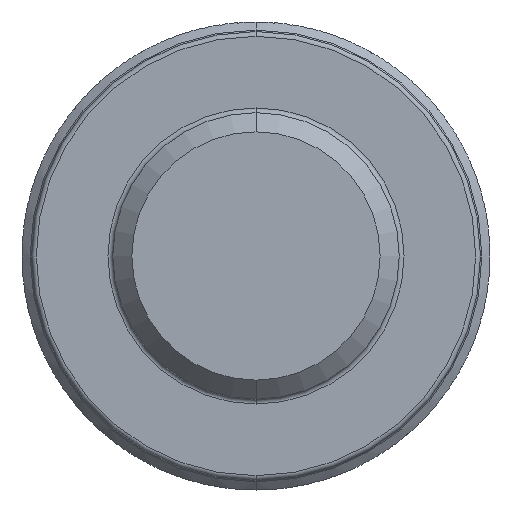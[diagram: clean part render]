
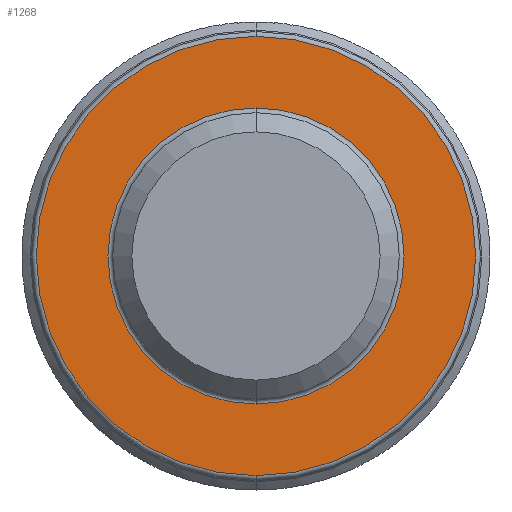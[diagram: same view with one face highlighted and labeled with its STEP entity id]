
A CAD part, front view. The second image highlights one B-rep face of the part: STEP entity #1268.
In plain terms, the highlighted planar face has unit normal (0, -1, 0).
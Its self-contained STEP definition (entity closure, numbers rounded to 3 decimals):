
#346 = AXIS2_PLACEMENT_3D ( 'NONE', #6908, #6822, #3471 ) ;
#473 = CARTESIAN_POINT ( 'NONE',  ( 0., -6., 4.6 ) ) ;
#552 = CARTESIAN_POINT ( 'NONE',  ( 0., -6., 3.1 ) ) ;
#920 = CARTESIAN_POINT ( 'NONE',  ( 0., -6., 0. ) ) ;
#1268 = ADVANCED_FACE ( 'NONE', ( #3577, #4415 ), #1534, .T. ) ;
#1534 = PLANE ( 'NONE',  #4714 ) ;
#1614 = CARTESIAN_POINT ( 'NONE',  ( 0., -6., -4.6 ) ) ;
#2065 = CARTESIAN_POINT ( 'NONE',  ( 0., -6., -3.1 ) ) ;
#2125 = CARTESIAN_POINT ( 'NONE',  ( 0., -6., 0. ) ) ;
#2214 = DIRECTION ( 'NONE',  ( 0., 0., -1. ) ) ;
#2222 = CIRCLE ( 'NONE', #346, 4.6 ) ;
#2250 = CIRCLE ( 'NONE', #7091, 3.1 ) ;
#2302 = VERTEX_POINT ( 'NONE', #2065 ) ;
#2313 = ORIENTED_EDGE ( 'NONE', *, *, #3550, .T. ) ;
#2330 = DIRECTION ( 'NONE',  ( 0., 0., -1. ) ) ;
#2399 = AXIS2_PLACEMENT_3D ( 'NONE', #2125, #6855, #2214 ) ;
#2532 = EDGE_CURVE ( 'NONE', #2302, #4646, #2250, .T. ) ;
#3295 = ORIENTED_EDGE ( 'NONE', *, *, #2532, .T. ) ;
#3471 = DIRECTION ( 'NONE',  ( 0., 0., -1. ) ) ;
#3550 = EDGE_CURVE ( 'NONE', #6171, #8036, #2222, .T. ) ;
#3577 = FACE_BOUND ( 'NONE', #3949, .T. ) ;
#3949 = EDGE_LOOP ( 'NONE', ( #3295, #7039 ) ) ;
#4239 = CARTESIAN_POINT ( 'NONE',  ( 3., -6., 0. ) ) ;
#4249 = CIRCLE ( 'NONE', #8720, 3.1 ) ;
#4415 = FACE_OUTER_BOUND ( 'NONE', #4691, .T. ) ;
#4646 = VERTEX_POINT ( 'NONE', #552 ) ;
#4691 = EDGE_LOOP ( 'NONE', ( #4827, #2313 ) ) ;
#4714 = AXIS2_PLACEMENT_3D ( 'NONE', #4239, #6311, #5714 ) ;
#4827 = ORIENTED_EDGE ( 'NONE', *, *, #7602, .T. ) ;
#5021 = DIRECTION ( 'NONE',  ( 0., 0., -1. ) ) ;
#5075 = CIRCLE ( 'NONE', #2399, 4.6 ) ;
#5616 = DIRECTION ( 'NONE',  ( 0., 1., 0. ) ) ;
#5714 = DIRECTION ( 'NONE',  ( 0., 0., -1. ) ) ;
#5963 = EDGE_CURVE ( 'NONE', #4646, #2302, #4249, .T. ) ;
#6171 = VERTEX_POINT ( 'NONE', #473 ) ;
#6311 = DIRECTION ( 'NONE',  ( 0., -1., 0. ) ) ;
#6822 = DIRECTION ( 'NONE',  ( 0., -1., 0. ) ) ;
#6855 = DIRECTION ( 'NONE',  ( 0., -1., 0. ) ) ;
#6879 = DIRECTION ( 'NONE',  ( 0., 1., 0. ) ) ;
#6908 = CARTESIAN_POINT ( 'NONE',  ( 0., -6., 0. ) ) ;
#7039 = ORIENTED_EDGE ( 'NONE', *, *, #5963, .T. ) ;
#7091 = AXIS2_PLACEMENT_3D ( 'NONE', #920, #5616, #2330 ) ;
#7602 = EDGE_CURVE ( 'NONE', #8036, #6171, #5075, .T. ) ;
#7637 = CARTESIAN_POINT ( 'NONE',  ( 0., -6., 0. ) ) ;
#8036 = VERTEX_POINT ( 'NONE', #1614 ) ;
#8720 = AXIS2_PLACEMENT_3D ( 'NONE', #7637, #6879, #5021 ) ;
